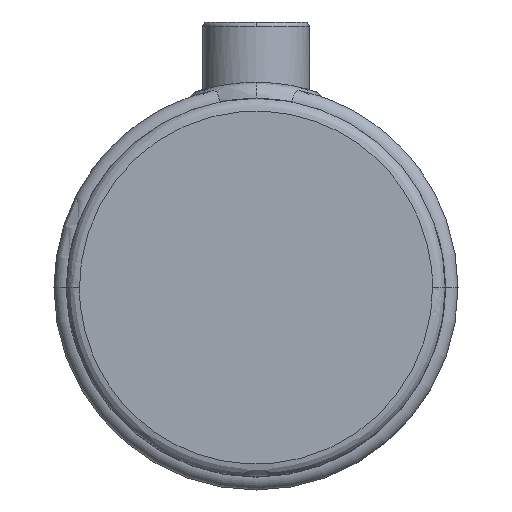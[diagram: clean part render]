
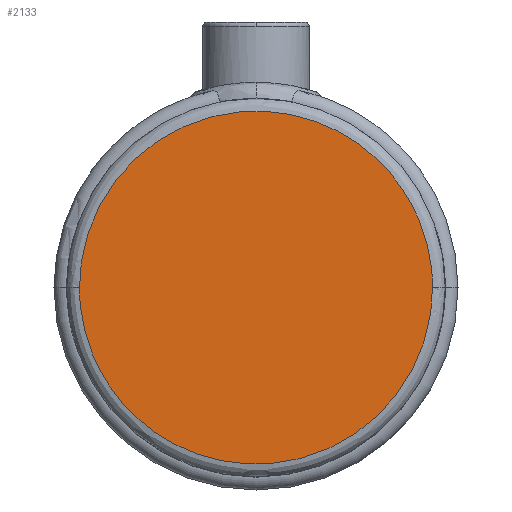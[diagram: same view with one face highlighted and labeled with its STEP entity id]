
A CAD part, top view. The second image highlights one B-rep face of the part: STEP entity #2133.
In plain terms, the highlighted planar face has unit normal (0, 0, 1).
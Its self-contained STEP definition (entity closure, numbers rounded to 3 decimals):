
#851 = PLANE ( 'NONE',  #4341 ) ;
#1542 = CARTESIAN_POINT ( 'NONE',  ( 41.45, 0., 50. ) ) ;
#1596 = EDGE_CURVE ( 'NONE', #2233, #3008, #7827, .T. ) ;
#1657 = CARTESIAN_POINT ( 'NONE',  ( 0., 22.225, 50. ) ) ;
#2133 = ADVANCED_FACE ( 'NONE', ( #7818 ), #851, .T. ) ;
#2233 = VERTEX_POINT ( 'NONE', #2637 ) ;
#2530 = EDGE_LOOP ( 'NONE', ( #4594, #7313 ) ) ;
#2627 = CARTESIAN_POINT ( 'NONE',  ( 41.45, 0., 50. ) ) ;
#2637 = CARTESIAN_POINT ( 'NONE',  ( -41.45, 0., 50. ) ) ;
#3008 = VERTEX_POINT ( 'NONE', #10286 ) ;
#3300 = DIRECTION ( 'NONE',  ( 0., 0., 1. ) ) ;
#4250 = CARTESIAN_POINT ( 'NONE',  ( -41.45, 0., 50. ) ) ;
#4341 = AXIS2_PLACEMENT_3D ( 'NONE', #1657, #3300, #8975 ) ;
#4594 = ORIENTED_EDGE ( 'NONE', *, *, #7529, .F. ) ;
#5589 = CARTESIAN_POINT ( 'NONE',  ( -41.45, 0., 50. ) ) ;
#6407 = CARTESIAN_POINT ( 'NONE',  ( 41.45, 82.9, 50. ) ) ;
#7313 = ORIENTED_EDGE ( 'NONE', *, *, #1596, .F. ) ;
#7487 = CARTESIAN_POINT ( 'NONE',  ( 41.45, -82.9, 50. ) ) ;
#7529 = EDGE_CURVE ( 'NONE', #3008, #2233, #8356, .T. ) ;
#7818 = FACE_OUTER_BOUND ( 'NONE', #2530, .T. ) ;
#7827 =( BOUNDED_CURVE ( )  B_SPLINE_CURVE ( 3, ( #5589, #10442, #6407, #1542 ),
 .UNSPECIFIED., .F., .F. ) 
 B_SPLINE_CURVE_WITH_KNOTS ( ( 4, 4 ),
 ( 0.75, 1.25 ),
 .UNSPECIFIED. ) 
 CURVE ( )  GEOMETRIC_REPRESENTATION_ITEM ( )  RATIONAL_B_SPLINE_CURVE ( ( 1., 0.333, 0.333, 1. ) ) 
 REPRESENTATION_ITEM ( '' )  );
#8356 =( BOUNDED_CURVE ( )  B_SPLINE_CURVE ( 3, ( #2627, #7487, #9112, #4250 ),
 .UNSPECIFIED., .F., .F. ) 
 B_SPLINE_CURVE_WITH_KNOTS ( ( 4, 4 ),
 ( 0.25, 0.75 ),
 .UNSPECIFIED. ) 
 CURVE ( )  GEOMETRIC_REPRESENTATION_ITEM ( )  RATIONAL_B_SPLINE_CURVE ( ( 1., 0.333, 0.333, 1. ) ) 
 REPRESENTATION_ITEM ( '' )  );
#8975 = DIRECTION ( 'NONE',  ( 0., -1., 0. ) ) ;
#9112 = CARTESIAN_POINT ( 'NONE',  ( -41.45, -82.9, 50. ) ) ;
#10286 = CARTESIAN_POINT ( 'NONE',  ( 41.45, 0., 50. ) ) ;
#10442 = CARTESIAN_POINT ( 'NONE',  ( -41.45, 82.9, 50. ) ) ;
